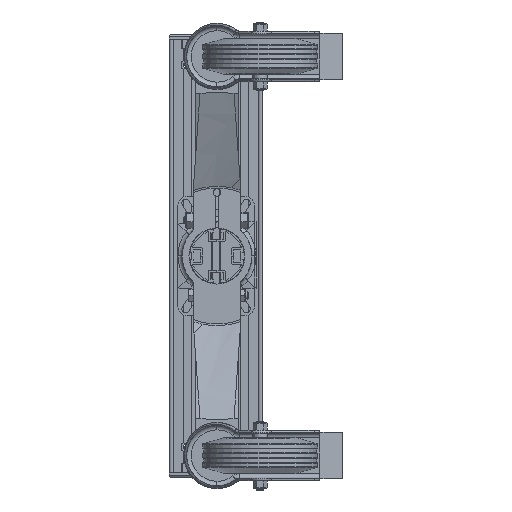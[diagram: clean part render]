
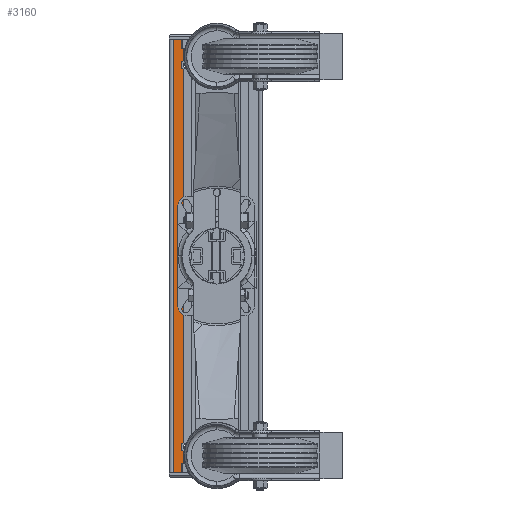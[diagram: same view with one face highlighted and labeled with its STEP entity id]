
A CAD part, front view. The second image highlights one B-rep face of the part: STEP entity #3160.
In plain terms, the highlighted planar face has unit normal (0, -1, 0).
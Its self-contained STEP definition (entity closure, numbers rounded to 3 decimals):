
#1235 = ORIENTED_EDGE ( 'NONE', *, *, #6736, .T. ) ;
#1236 = EDGE_CURVE ( 'NONE', #12123, #11471, #9000, .T. ) ;
#1485 = ORIENTED_EDGE ( 'NONE', *, *, #1236, .T. ) ;
#1486 = EDGE_CURVE ( 'NONE', #12123, #4097, #12137, .T. ) ;
#2886 = ORIENTED_EDGE ( 'NONE', *, *, #1486, .F. ) ;
#2887 = ORIENTED_EDGE ( 'NONE', *, *, #8520, .F. ) ;
#3160 = ADVANCED_FACE ( 'NONE', ( #31757 ), #31727, .F. ) ;
#3799 = VERTEX_POINT ( 'NONE', #45903 ) ;
#4097 = VERTEX_POINT ( 'NONE', #57762 ) ;
#5298 = EDGE_CURVE ( 'NONE', #3799, #11743, #59537, .T. ) ;
#6735 = ORIENTED_EDGE ( 'NONE', *, *, #8632, .F. ) ;
#6736 = EDGE_CURVE ( 'NONE', #11471, #20153, #16148, .T. ) ;
#8520 = EDGE_CURVE ( 'NONE', #4097, #3799, #46430, .T. ) ;
#8632 = EDGE_CURVE ( 'NONE', #21064, #20153, #47001, .T. ) ;
#8997 = DIRECTION ( 'NONE',  ( 0., 0., -1. ) ) ;
#8998 = VECTOR ( 'NONE', #8997, 1000. ) ;
#8999 = CARTESIAN_POINT ( 'NONE',  ( -471.786, 323.017, 415.021 ) ) ;
#9000 = LINE ( 'NONE', #8999, #8998 ) ;
#11471 = VERTEX_POINT ( 'NONE', #14914 ) ;
#11743 = VERTEX_POINT ( 'NONE', #17521 ) ;
#12123 = VERTEX_POINT ( 'NONE', #19983 ) ;
#12136 = DIRECTION ( 'NONE',  ( 1., 0., 0. ) ) ;
#12137 = LINE ( 'NONE', #12149, #12148 ) ;
#12148 = VECTOR ( 'NONE', #12136, 1000. ) ;
#12149 = CARTESIAN_POINT ( 'NONE',  ( -471.786, 323.017, 415.021 ) ) ;
#12479 = EDGE_LOOP ( 'NONE', ( #21453, #21451, #2887, #2886, #1485, #1235, #6735, #20680 ) ) ;
#13850 = EDGE_CURVE ( 'NONE', #19591, #21064, #38252, .T. ) ;
#14914 = CARTESIAN_POINT ( 'NONE',  ( -471.786, 323.017, -56.979 ) ) ;
#16142 = DIRECTION ( 'NONE',  ( 1., 0., 0. ) ) ;
#16144 = VECTOR ( 'NONE', #16142, 1000. ) ;
#16146 = CARTESIAN_POINT ( 'NONE',  ( -471.786, 323.017, -56.979 ) ) ;
#16148 = LINE ( 'NONE', #16146, #16144 ) ;
#16387 = EDGE_CURVE ( 'NONE', #11743, #19591, #33101, .T. ) ;
#17521 = CARTESIAN_POINT ( 'NONE',  ( -461.536, 323.017, 381.879 ) ) ;
#19591 = VERTEX_POINT ( 'NONE', #49260 ) ;
#19983 = CARTESIAN_POINT ( 'NONE',  ( -471.786, 323.017, 415.021 ) ) ;
#20153 = VERTEX_POINT ( 'NONE', #51125 ) ;
#20680 = ORIENTED_EDGE ( 'NONE', *, *, #13850, .F. ) ;
#21064 = VERTEX_POINT ( 'NONE', #53122 ) ;
#21451 = ORIENTED_EDGE ( 'NONE', *, *, #5298, .F. ) ;
#21453 = ORIENTED_EDGE ( 'NONE', *, *, #16387, .F. ) ;
#31718 = DIRECTION ( 'NONE',  ( -1., 0., 0. ) ) ;
#31720 = DIRECTION ( 'NONE',  ( 0., 1., 0. ) ) ;
#31722 = CARTESIAN_POINT ( 'NONE',  ( -471.786, 323.017, 415.021 ) ) ;
#31725 = AXIS2_PLACEMENT_3D ( 'NONE', #31722, #31720, #31718 ) ;
#31727 = PLANE ( 'NONE',  #31725 ) ;
#31757 = FACE_OUTER_BOUND ( 'NONE', #12479, .T. ) ;
#33070 = DIRECTION ( 'NONE',  ( 0., 0., -1. ) ) ;
#33071 = VECTOR ( 'NONE', #33070, 1000. ) ;
#33073 = CARTESIAN_POINT ( 'NONE',  ( -461.536, 323.017, 415.021 ) ) ;
#33101 = LINE ( 'NONE', #33073, #33071 ) ;
#38252 = CIRCLE ( 'NONE', #38565, 7. ) ;
#38561 = DIRECTION ( 'NONE',  ( 1., 0., 0. ) ) ;
#38562 = DIRECTION ( 'NONE',  ( 0., -1., 0. ) ) ;
#38563 = CARTESIAN_POINT ( 'NONE',  ( -456.786, 323.017, -28.979 ) ) ;
#38565 = AXIS2_PLACEMENT_3D ( 'NONE', #38563, #38562, #38561 ) ;
#45903 = CARTESIAN_POINT ( 'NONE',  ( -461.536, 323.017, 392.163 ) ) ;
#46427 = DIRECTION ( 'NONE',  ( 0., 0., -1. ) ) ;
#46428 = VECTOR ( 'NONE', #46427, 1000. ) ;
#46429 = CARTESIAN_POINT ( 'NONE',  ( -461.536, 323.017, 415.021 ) ) ;
#46430 = LINE ( 'NONE', #46429, #46428 ) ;
#46998 = DIRECTION ( 'NONE',  ( 0., 0., -1. ) ) ;
#46999 = VECTOR ( 'NONE', #46998, 1000. ) ;
#47000 = CARTESIAN_POINT ( 'NONE',  ( -461.536, 323.017, 415.021 ) ) ;
#47001 = LINE ( 'NONE', #47000, #46999 ) ;
#49260 = CARTESIAN_POINT ( 'NONE',  ( -461.536, 323.017, -23.837 ) ) ;
#51125 = CARTESIAN_POINT ( 'NONE',  ( -461.536, 323.017, -56.979 ) ) ;
#53122 = CARTESIAN_POINT ( 'NONE',  ( -461.536, 323.017, -34.121 ) ) ;
#57762 = CARTESIAN_POINT ( 'NONE',  ( -461.536, 323.017, 415.021 ) ) ;
#59536 = AXIS2_PLACEMENT_3D ( 'NONE', #59549, #59548, #59547 ) ;
#59537 = CIRCLE ( 'NONE', #59536, 7. ) ;
#59547 = DIRECTION ( 'NONE',  ( 1., 0., 0. ) ) ;
#59548 = DIRECTION ( 'NONE',  ( 0., -1., 0. ) ) ;
#59549 = CARTESIAN_POINT ( 'NONE',  ( -456.786, 323.017, 387.021 ) ) ;
